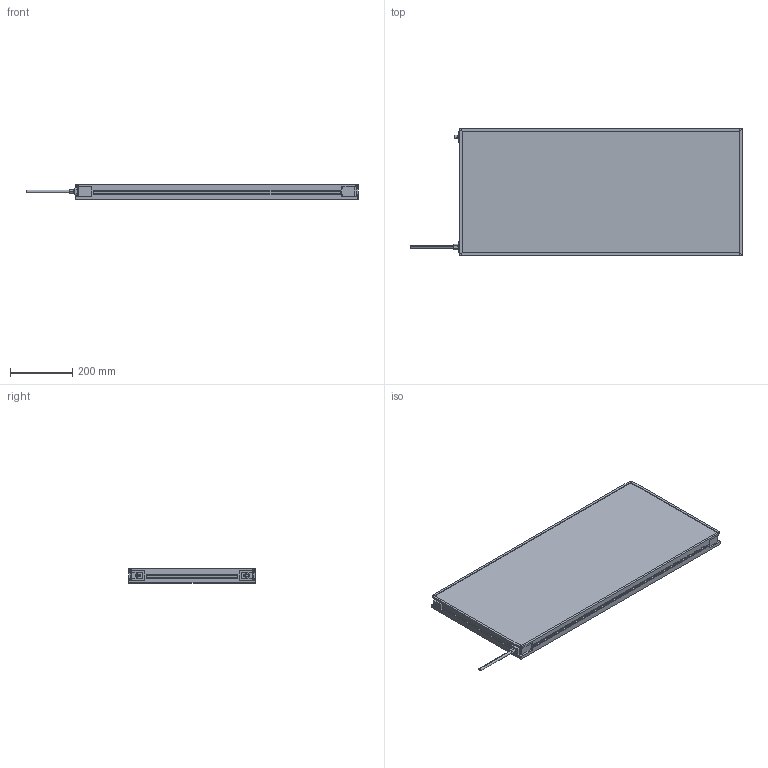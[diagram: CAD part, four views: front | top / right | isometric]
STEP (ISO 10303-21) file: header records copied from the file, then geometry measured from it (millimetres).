
FILE_DESCRIPTION (( 'STEP AP214' ), '1' );
FILE_NAME ('MBACK-xxxx-xxx-M1A2_CLIENT400x900.STEP', '2022-04-01T11:39:40', ( '' ), ( '' ), 'SwSTEP 2.0', 'SolidWorks 2020', '' );
FILE_SCHEMA (( 'AUTOMOTIVE_DESIGN' ));
Length unit declared in the file: millimetre
Products named in the file (1): MBACK-xxxx-xxx-M1A2_CLIENT400x900
Bounding box: 1067.4 x 408 x 45.5 mm (x, y, z)
Volume: 15402861 mm3; surface area: 921614.9 mm2
Topology: 1 solids, 1 shells, 470 faces, 1210 edges, 804 vertices
Faces by surface type: plane 265, cylinder 117, bspline 80, cone 8
Entity records: 18046 total; most frequent: CARTESIAN_POINT 6837, ORIENTED_EDGE 2420, DIRECTION 2082, EDGE_CURVE 1210, VERTEX_POINT 804, VECTOR 800, LINE 800, AXIS2_PLACEMENT_3D 641
